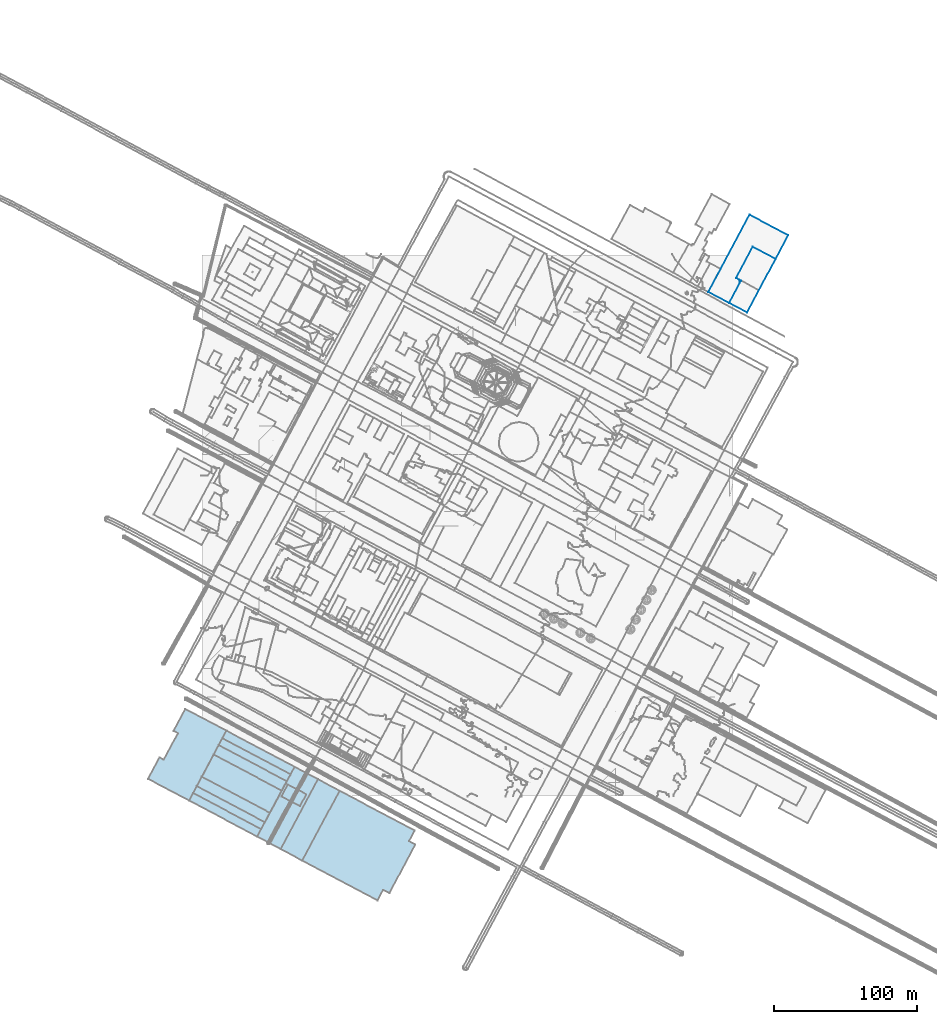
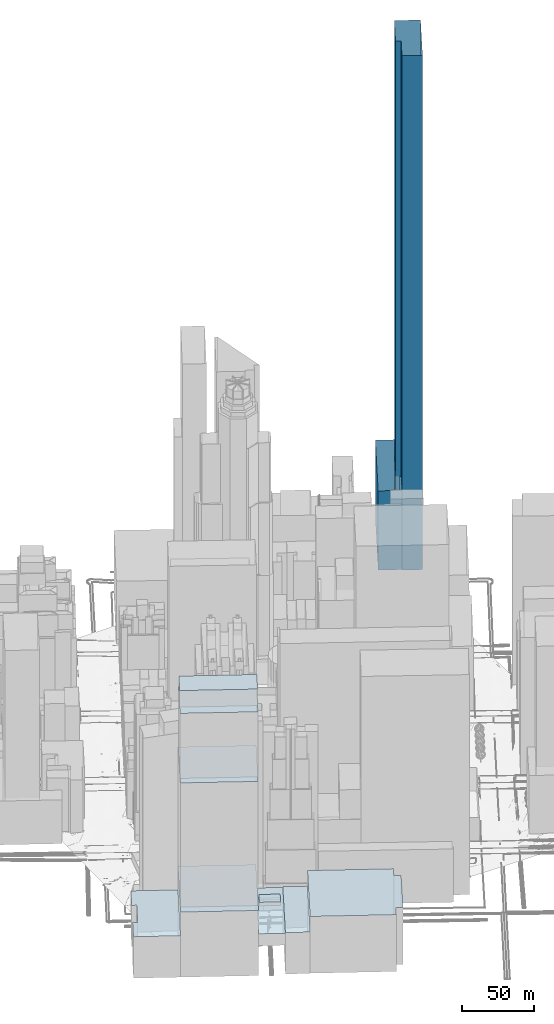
# Not in any storey, part 35 of 80: 9 roofs, 2 walls.
"""IFC4 building model written with IfcOpenShell, lengths in metres."""

from ifc_helpers import new_model, si_unit, frame, origin_with_axes, place, context, subcontext, project, spatial, polygons, element, save


model = new_model("IFC4")

# Units and contexts
model_context = context("Model", 3, precision=1e-05, world=origin_with_axes())
body_context = subcontext(model_context, "Body", "Model", "MODEL_VIEW")
ifc_project = project(units=[si_unit("AREAUNIT", "SQUARE_METRE"), si_unit("LENGTHUNIT", "METRE")], contexts=[model_context])

# Sites, building
site_1_placement = place(None, origin_with_axes())
site_1 = spatial("IfcSite", under=ifc_project, at=site_1_placement, Name="Topoexport Site")
site_2_placement = place(site_1_placement, origin_with_axes())
site_2 = spatial("IfcSite", under=site_1, at=site_2_placement, Name="TPX_BATIMENTS")
building_1_placement = place(site_2_placement, frame((369.7036563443, 345.7479637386, 18.6004102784), z_axis=(0.0, 0.0, 1.0), x_axis=(1.0, 0.0, 0.0)))
building_1 = spatial("IfcBuilding", under=site_2, at=building_1_placement, Name="Batiment 226", CompositionType="ELEMENT")

# Wall
wall_1_placement = place(None, frame((369.7036563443, 345.7479637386, 18.6004102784), z_axis=(0.0, 0.0, 1.0), x_axis=(1.0, 0.0, 0.0)))
element("IfcWall", 1, at=wall_1_placement, inside=building_1, Name="Mur 0", context=body_context, shape_type="Tessellation", body=[
    polygons([(0.0, 0.0, 0.0), (12.5538989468, -6.6594085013, 0.0), (32.6119575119, 30.8779721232, 0.0), (16.5756487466, 39.3841472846, 0.0), (4.8696102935, 17.4761939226, 0.0), (8.3520704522, 15.6293873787, 0.0), (0.0, 0.0, 435.0), (12.5538989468, -6.6594085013, 435.0), (32.6119575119, 30.8779721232, 435.0), (16.5756487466, 39.3841472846, 435.0), (4.8696102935, 17.4761939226, 435.0), (8.3520704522, 15.6293873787, 435.0)], [[[8, 7, 2]], [[2, 7, 1]], [[9, 8, 3]], [[3, 8, 2]], [[10, 9, 4]], [[4, 9, 3]], [[11, 10, 5]], [[5, 10, 4]], [[7, 12, 1]], [[1, 12, 6]], [[12, 11, 6]], [[6, 11, 5]]]),
])

# Building
building_2_placement = place(site_2_placement, frame((355.1197740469, 353.4828688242, 19.0004593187), z_axis=(0.0, 0.0, 1.0), x_axis=(1.0, 0.0, 0.0)))
building_2 = spatial("IfcBuilding", under=site_2, at=building_2_placement, Name="Batiment 238", CompositionType="ELEMENT")

# Wall
wall_2_placement = place(None, frame((355.1197740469, 353.4828688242, 19.0004593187), z_axis=(0.0, 0.0, 1.0), x_axis=(1.0, 0.0, 0.0)))
element("IfcWall", 2, at=wall_2_placement, inside=building_2, Name="Mur 0", context=body_context, shape_type="Tessellation", body=[
    polygons([(0.0, 0.0, 0.0), (14.5838822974, -7.7349050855, 0.0), (22.0519980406, 6.2410466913, 0.0), (21.7807161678, 8.5138501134, 0.0), (19.4534925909, 9.741288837, 0.0), (31.159531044, 31.649242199, 0.0), (47.1958398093, 23.1430670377, 0.0), (56.0517837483, 39.7109589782, 0.0), (28.9225776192, 54.1052639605, 0.0), (0.0, 0.0, 67.0), (14.5838822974, -7.7349050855, 67.0), (22.0519980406, 6.2410466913, 67.0), (21.7807161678, 8.5138501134, 67.0), (19.4534925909, 9.741288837, 67.0), (31.159531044, 31.649242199, 67.0), (47.1958398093, 23.1430670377, 67.0), (56.0517837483, 39.7109589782, 67.0), (28.9225776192, 54.1052639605, 67.0)], [[[11, 10, 2]], [[2, 10, 1]], [[12, 11, 3]], [[3, 11, 2]], [[13, 12, 4]], [[4, 12, 3]], [[14, 13, 5]], [[5, 13, 4]], [[15, 14, 6]], [[6, 14, 5]], [[16, 15, 7]], [[7, 15, 6]], [[17, 16, 8]], [[8, 16, 7]], [[10, 18, 1]], [[1, 18, 9]], [[18, 17, 9]], [[9, 17, 8]]]),
])

# Building
building_3_placement = place(site_2_placement, frame((70.4319082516, -45.3124381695, 19.6413035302), z_axis=(0.0, 0.0, 1.0), x_axis=(1.0, 0.0, 0.0)))
building_3 = spatial("IfcBuilding", under=site_2, at=building_3_placement, Name="Batiment 153", CompositionType="ELEMENT")

# Roof
roof_1_placement = place(None, frame((70.4319082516, -45.3124381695, 19.6413035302), z_axis=(0.0, 0.0, 1.0), x_axis=(1.0, 0.0, 0.0)))
element("IfcRoof", 3, at=roof_1_placement, inside=building_3, Name="Toiture 0", context=body_context, shape_type="Tessellation", body=[
    polygons([(0.0, 0.0, 48.0), (52.7563009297, -27.9312178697, 48.0), (56.721804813, -20.4799520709, 48.0), (61.1215341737, -22.7936176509, 48.0), (79.2214604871, 11.2896457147, 48.0), (74.804734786, 13.6142050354, 48.0), (78.7949988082, 21.1101810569, 48.0), (26.1498243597, 48.9425792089, 48.0)], [[[8, 1, 2]], [[3, 4, 5]], [[6, 7, 8]], [[8, 2, 3]], [[3, 5, 6]], [[6, 8, 3]]]),
])

# Building
building_4_placement = place(site_2_placement, frame((-37.764592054, 12.0631870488, 18.5499973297), z_axis=(0.0, 0.0, 1.0), x_axis=(1.0, 0.0, 0.0)))
building_4 = spatial("IfcBuilding", under=site_2, at=building_4_placement, Name="Batiment 198", CompositionType="ELEMENT")

# Roof
roof_2_placement = place(None, frame((-37.764592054, 12.0631870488, 18.5499973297), z_axis=(0.0, 0.0, 1.0), x_axis=(1.0, 0.0, 0.0)))
element("IfcRoof", 4, at=roof_2_placement, inside=building_4, Name="Toiture 0", context=body_context, shape_type="Tessellation", body=[
    polygons([(0.0, 0.0, 35.0), (28.8870060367, -15.2414440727, 35.0), (55.0371870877, 33.7008524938, 35.0), (26.1587518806, 48.9422915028, 35.0), (17.9295410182, 33.536852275, 35.0), (21.0212047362, 31.907372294, 35.0), (11.1393837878, 13.4185558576, 35.0), (8.0475860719, 15.0591407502, 35.0)], [[[8, 1, 2]], [[2, 3, 4]], [[4, 5, 6]], [[7, 8, 2]], [[2, 4, 6]], [[6, 7, 2]]]),
])

# Building
building_5_placement = place(site_2_placement, frame((0.0457305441, 13.5231043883, 233.5817263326), z_axis=(0.0, 0.0, 1.0), x_axis=(1.0, 0.0, 0.0)))
building_5 = spatial("IfcBuilding", under=site_2, at=building_5_placement, Name="Batiment 218", CompositionType="ELEMENT")

# Roof
roof_3_placement = place(None, frame((0.0457305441, 13.5231043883, 233.5817263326), z_axis=(0.0, 0.0, 1.0), x_axis=(1.0, 0.0, 0.0)))
element("IfcRoof", 5, at=roof_3_placement, inside=building_5, Name="Toiture 0", context=body_context, shape_type="Tessellation", body=[
    polygons([(0.0, 0.0, 14.0), (47.6860402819, -25.3593207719, 14.0), (56.0060946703, -9.7862176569, 14.0), (8.2954448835, 15.5172515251, 14.0)], [[[4, 1, 2]], [[2, 3, 4]]]),
])

# Building
building_6_placement = place(site_2_placement, frame((-3.482289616, 6.9207531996, 178.5499973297), z_axis=(0.0, 0.0, 1.0), x_axis=(1.0, 0.0, 0.0)))
building_6 = spatial("IfcBuilding", under=site_2, at=building_6_placement, Name="Batiment 219", CompositionType="ELEMENT")

# Roof
roof_4_placement = place(None, frame((-3.482289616, 6.9207531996, 178.5499973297), z_axis=(0.0, 0.0, 1.0), x_axis=(1.0, 0.0, 0.0)))
element("IfcRoof", 6, at=roof_4_placement, inside=building_6, Name="Toiture 0", context=body_context, shape_type="Tessellation", body=[
    polygons([(0.0, 0.0, 55.0), (47.6860692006, -25.359343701, 55.0), (63.0622131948, 3.4074130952, 55.0), (15.3430229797, 28.7218621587, 55.0)], [[[4, 1, 2]], [[2, 3, 4]]]),
])

# Building
building_7_placement = place(site_2_placement, frame((-6.0684346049, 2.0834835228, 73.5499973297), z_axis=(0.0, 0.0, 1.0), x_axis=(1.0, 0.0, 0.0)))
building_7 = spatial("IfcBuilding", under=site_2, at=building_7_placement, Name="Batiment 220", CompositionType="ELEMENT")

# Roof
roof_5_placement = place(None, frame((-6.0684346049, 2.0834835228, 73.5499973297), z_axis=(0.0, 0.0, 1.0), x_axis=(1.0, 0.0, 0.0)))
element("IfcRoof", 7, at=roof_5_placement, inside=building_7, Name="Toiture 0", context=body_context, shape_type="Tessellation", body=[
    polygons([(0.0, 0.0, 105.0), (47.6862192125, -25.3704612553, 105.0), (68.234328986, 13.0930768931, 105.0), (20.5236005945, 38.4076070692, 105.0)], [[[4, 1, 2]], [[2, 3, 4]]]),
])

# Building
building_8_placement = place(site_2_placement, frame((-8.8775860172, -3.1782570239, 18.5499973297), z_axis=(0.0, 0.0, 1.0), x_axis=(1.0, 0.0, 0.0)))
building_8 = spatial("IfcBuilding", under=site_2, at=building_8_placement, Name="Batiment 221", CompositionType="ELEMENT")

# Roof
roof_6_placement = place(None, frame((-8.8775860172, -3.1782570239, 18.5499973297), z_axis=(0.0, 0.0, 1.0), x_axis=(1.0, 0.0, 0.0)))
element("IfcRoof", 8, at=roof_6_placement, inside=building_8, Name="Toiture 0", context=body_context, shape_type="Tessellation", body=[
    polygons([(0.0, 0.0, 55.0), (47.7107911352, -25.3035811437, 55.0), (73.869197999, 23.6389834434, 55.0), (26.150181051, 48.9422965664, 55.0)], [[[4, 1, 2]], [[2, 3, 4]]]),
])

# Building
building_9_placement = place(site_2_placement, frame((55.3366535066, -37.1942935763, 19.4063848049), z_axis=(0.0, 0.0, 1.0), x_axis=(1.0, 0.0, 0.0)))
building_9 = spatial("IfcBuilding", under=site_2, at=building_9_placement, Name="Batiment 222", CompositionType="ELEMENT")

# Roof
roof_7_placement = place(None, frame((55.3366535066, -37.1942935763, 19.4063848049), z_axis=(0.0, 0.0, 1.0), x_axis=(1.0, 0.0, 0.0)))
element("IfcRoof", 9, at=roof_7_placement, inside=building_9, Name="Toiture 0", context=body_context, shape_type="Tessellation", body=[
    polygons([(0.0, 0.0, 35.0), (15.095254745, -8.1181445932, 35.0), (41.2450791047, 40.8244346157, 35.0), (26.1500207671, 48.9314246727, 35.0)], [[[4, 1, 2]], [[2, 3, 4]]]),
])

# Building
building_10_placement = place(site_2_placement, frame((55.8285008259, -0.2958209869, 54.4127792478), z_axis=(0.0, 0.0, 1.0), x_axis=(1.0, 0.0, 0.0)))
building_10 = spatial("IfcBuilding", under=site_2, at=building_10_placement, Name="Batiment 223", CompositionType="ELEMENT")

# Roof
roof_8_placement = place(None, frame((55.8285008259, -0.2958209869, 54.4127792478), z_axis=(0.0, 0.0, 1.0), x_axis=(1.0, 0.0, 0.0)))
element("IfcRoof", 10, at=roof_8_placement, inside=building_10, Name="Toiture 0", context=body_context, shape_type="Tessellation", body=[
    polygons([(0.0, 0.0, 3.0), (13.0041051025, -6.8767632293, 3.0), (17.4570509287, 1.4905172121, 3.0), (4.453084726, 8.356171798, 3.0)], [[[4, 1, 2]], [[2, 3, 4]]]),
])

# Building
building_11_placement = place(site_2_placement, frame((38.833205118, -28.4818381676, 43.7777920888), z_axis=(0.0, 0.0, 1.0), x_axis=(1.0, 0.0, 0.0)))
building_11 = spatial("IfcBuilding", under=site_2, at=building_11_placement, Name="Batiment 224", CompositionType="ELEMENT")

# Roof
roof_9_placement = place(None, frame((38.833205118, -28.4818381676, 43.7777920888), z_axis=(0.0, 0.0, 1.0), x_axis=(1.0, 0.0, 0.0)))
element("IfcRoof", 11, at=roof_9_placement, inside=building_11, Name="Toiture 0", context=body_context, shape_type="Tessellation", body=[
    polygons([(0.0, 0.0, 10.0), (16.5034483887, -8.7124554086, 10.0), (42.6534691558, 40.2189692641, 10.0), (26.1584068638, 48.9425645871, 10.0)], [[[4, 1, 2]], [[2, 3, 4]]]),
])

save(model, "model.ifc")
